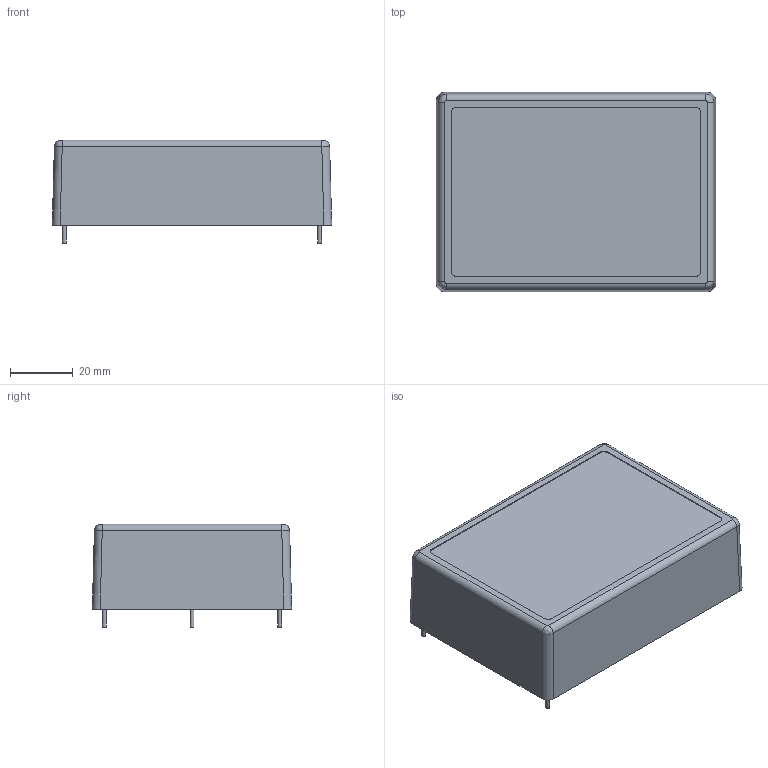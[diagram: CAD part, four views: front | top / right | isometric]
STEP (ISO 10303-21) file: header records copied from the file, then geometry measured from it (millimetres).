
FILE_DESCRIPTION(/* description */ (''),/* implementation_level */ '2;1');
FILE_NAME(/* name */ 'D:\Inventor\MSC\AMM60.stp',/* time_stamp */ '2016-08-22T16:17:40+08:00',/* author */ ('peter'),/* organization */ (''),/* preprocessor_version */ 'ST-DEVELOPER v15.2',/* originating_system */ 'Autodesk Inventor 2014',/* authorisation */ '');
FILE_SCHEMA (('CONFIG_CONTROL_DESIGN'));
Length unit declared in the file: millimetre
Products named in the file (5): AMM60; MSC BOT CASE; AMM60 - 1; PIN 1R2 x 32 mm
Bounding box: 89 x 63.5 x 32.9 mm (x, y, z)
Volume: 18235.7 mm3; surface area: 37967.7 mm2
Topology: 6 solids, 6 shells, 169 faces, 406 edges, 260 vertices
Faces by surface type: plane 91, cylinder 47, torus 16, bspline 8, cone 7
Full cylindrical faces by diameter (mm): 1.2 x8, 1.3 x7, 1.7 x4
Entity records: 4312 total; most frequent: CARTESIAN_POINT 890, DIRECTION 702, ORIENTED_EDGE 654, EDGE_CURVE 327, AXIS2_PLACEMENT_3D 235, LINE 232, VECTOR 232, VERTEX_POINT 223
